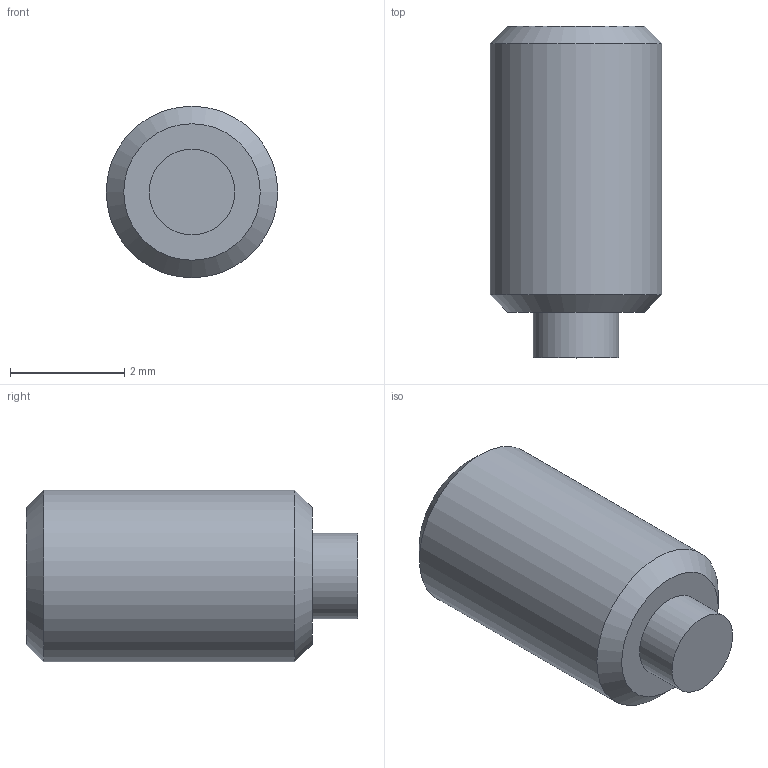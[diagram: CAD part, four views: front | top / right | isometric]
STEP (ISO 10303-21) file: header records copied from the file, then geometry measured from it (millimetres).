
FILE_DESCRIPTION( ( 'STEP AP203' ), '1' );
FILE_NAME( 'C:/Temp/Ganter_Step_05_03_2020/data/3_2/gn913_3/Grub screw GN 913.3-M3-5-KU.stp', '2020-03-13T05:35:32', ( 'License CC BY-ND 4.0' ), ( 'CADENAS' ), ' ', 'PARTsolutions', ' ' );
FILE_SCHEMA( ( 'CONFIG_CONTROL_DESIGN' ) );
Length unit declared in the file: millimetre
Products named in the file (1): _Grub screw GN 913.3-M3-5-KU
Bounding box: 3 x 5.8 x 3 mm (x, y, z)
Volume: 33 mm3; surface area: 69.2 mm2
Topology: 1 solids, 1 shells, 14 faces, 28 edges, 18 vertices
Faces by surface type: plane 10, cylinder 2, cone 2
Full cylindrical faces by diameter (mm): 1.5 x1, 3 x1
Entity records: 386 total; most frequent: DIRECTION 60, CARTESIAN_POINT 57, ORIENTED_EDGE 48, EDGE_CURVE 24, AXIS2_PLACEMENT_3D 21, EDGE_LOOP 20, VERTEX_POINT 18, LINE 18
